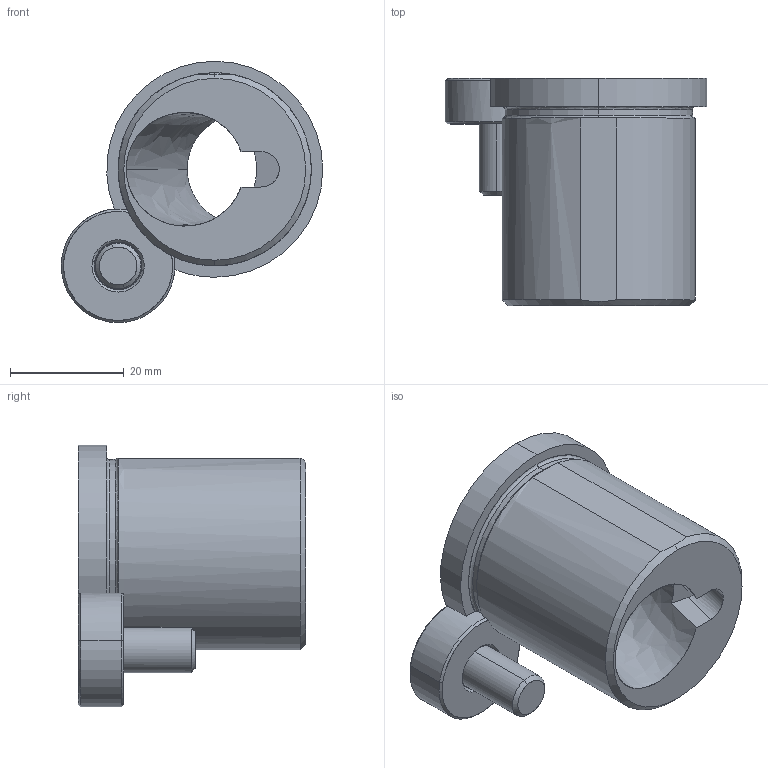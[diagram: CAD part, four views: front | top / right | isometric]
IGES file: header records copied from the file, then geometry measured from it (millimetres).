
Start section: START RECORD GO HERE.
Global section: file name: gr344038-15.igs; native system: DASSAULT SYSTEMES CATIA V5 R20 - www.3ds.com; preprocessor: CATIA Version 5 Release 20 ; author: Utente; organization: NB04-ASUS; date: 20201108.075505; units: millimetre
Bounding box: 46 x 40 x 46 mm (x, y, z)
Surface area: 10785.4 mm2 (no closed solid volume)
Topology: 0 solids, 0 shells, 75 faces, 342 edges, 340 vertices
Faces by surface type: revolution 50, plane 25
